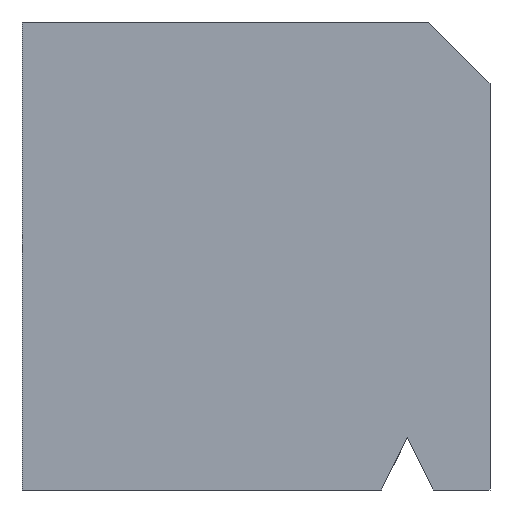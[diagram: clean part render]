
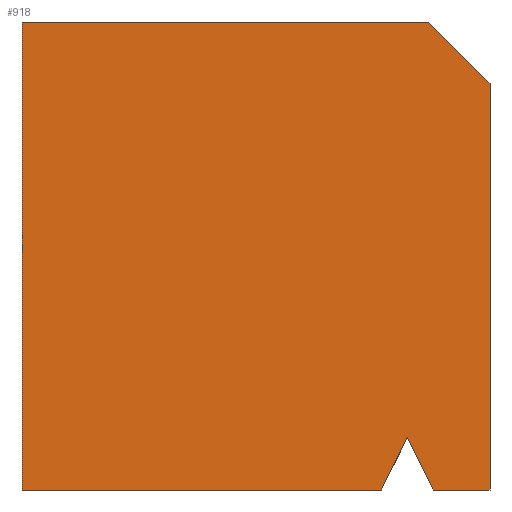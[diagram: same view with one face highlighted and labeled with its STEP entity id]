
A CAD part, front view. The second image highlights one B-rep face of the part: STEP entity #918.
In plain terms, the highlighted planar face has unit normal (0, -1, 0).
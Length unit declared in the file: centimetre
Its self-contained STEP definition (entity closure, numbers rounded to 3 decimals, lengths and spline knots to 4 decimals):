
#8 = CARTESIAN_POINT ( 'NONE',  ( 0., 0., 1000. ) ) ;
#15 = LINE ( 'NONE', #664, #30 ) ;
#16 = VECTOR ( 'NONE', #127, 100. ) ;
#30 = VECTOR ( 'NONE', #373, 100. ) ;
#35 = CARTESIAN_POINT ( 'NONE',  ( 0., 0., 0. ) ) ;
#41 = VECTOR ( 'NONE', #830, 100. ) ;
#58 = DIRECTION ( 'NONE',  ( 0., 0., -1. ) ) ;
#73 = DIRECTION ( 'NONE',  ( 0., 0., 1. ) ) ;
#79 = EDGE_CURVE ( 'NONE', #199, #352, #169, .T. ) ;
#127 = DIRECTION ( 'NONE',  ( -0.707, 0., 0.707 ) ) ;
#132 = CARTESIAN_POINT ( 'NONE',  ( 1000., 0., 0. ) ) ;
#138 = ORIENTED_EDGE ( 'NONE', *, *, #663, .F. ) ;
#145 = FACE_OUTER_BOUND ( 'NONE', #265, .T. ) ;
#169 = LINE ( 'NONE', #8, #752 ) ;
#170 = CARTESIAN_POINT ( 'NONE',  ( 0., 0., 0. ) ) ;
#175 = VERTEX_POINT ( 'NONE', #893 ) ;
#185 = LINE ( 'NONE', #346, #419 ) ;
#199 = VERTEX_POINT ( 'NONE', #889 ) ;
#200 = CARTESIAN_POINT ( 'NONE',  ( 1000., 0., 868.3374 ) ) ;
#201 = CARTESIAN_POINT ( 'NONE',  ( 868.3374, 0., 1000. ) ) ;
#207 = VECTOR ( 'NONE', #272, 100. ) ;
#258 = LINE ( 'NONE', #549, #41 ) ;
#265 = EDGE_LOOP ( 'NONE', ( #288, #340, #891, #843, #138, #689, #481, #644 ) ) ;
#271 = AXIS2_PLACEMENT_3D ( 'NONE', #420, #779, #73 ) ;
#272 = DIRECTION ( 'NONE',  ( -0.441, 0., -0.897 ) ) ;
#275 = VERTEX_POINT ( 'NONE', #35 ) ;
#288 = ORIENTED_EDGE ( 'NONE', *, *, #656, .T. ) ;
#301 = EDGE_CURVE ( 'NONE', #199, #275, #743, .T. ) ;
#340 = ORIENTED_EDGE ( 'NONE', *, *, #482, .F. ) ;
#346 = CARTESIAN_POINT ( 'NONE',  ( 1000., 0., 1000. ) ) ;
#352 = VERTEX_POINT ( 'NONE', #376 ) ;
#361 = EDGE_CURVE ( 'NONE', #651, #418, #890, .T. ) ;
#366 = VERTEX_POINT ( 'NONE', #738 ) ;
#373 = DIRECTION ( 'NONE',  ( -0.441, 0., 0.897 ) ) ;
#376 = CARTESIAN_POINT ( 'NONE',  ( 868.3374, 0., 1000. ) ) ;
#394 = EDGE_CURVE ( 'NONE', #493, #352, #842, .T. ) ;
#418 = VERTEX_POINT ( 'NONE', #132 ) ;
#419 = VECTOR ( 'NONE', #58, 100. ) ;
#420 = CARTESIAN_POINT ( 'NONE',  ( 0., 0., 1000. ) ) ;
#435 = PLANE ( 'NONE',  #271 ) ;
#445 = DIRECTION ( 'NONE',  ( 1., 0., 0. ) ) ;
#481 = ORIENTED_EDGE ( 'NONE', *, *, #79, .F. ) ;
#482 = EDGE_CURVE ( 'NONE', #175, #366, #614, .T. ) ;
#493 = VERTEX_POINT ( 'NONE', #200 ) ;
#529 = CARTESIAN_POINT ( 'NONE',  ( 0., 0., 1000. ) ) ;
#549 = CARTESIAN_POINT ( 'NONE',  ( 0., 0., 0. ) ) ;
#586 = VECTOR ( 'NONE', #445, 100. ) ;
#614 = LINE ( 'NONE', #694, #207 ) ;
#644 = ORIENTED_EDGE ( 'NONE', *, *, #301, .T. ) ;
#651 = VERTEX_POINT ( 'NONE', #824 ) ;
#656 = EDGE_CURVE ( 'NONE', #275, #366, #258, .T. ) ;
#663 = EDGE_CURVE ( 'NONE', #493, #418, #185, .T. ) ;
#664 = CARTESIAN_POINT ( 'NONE',  ( 823.5752, 0., 113.1982 ) ) ;
#689 = ORIENTED_EDGE ( 'NONE', *, *, #394, .T. ) ;
#694 = CARTESIAN_POINT ( 'NONE',  ( 767.9178, 0., 0. ) ) ;
#738 = CARTESIAN_POINT ( 'NONE',  ( 767.9178, 0., 0. ) ) ;
#743 = LINE ( 'NONE', #529, #789 ) ;
#752 = VECTOR ( 'NONE', #865, 100. ) ;
#754 = EDGE_CURVE ( 'NONE', #651, #175, #15, .T. ) ;
#779 = DIRECTION ( 'NONE',  ( 0., 1., 0. ) ) ;
#789 = VECTOR ( 'NONE', #894, 100. ) ;
#824 = CARTESIAN_POINT ( 'NONE',  ( 879.2326, 0., 0. ) ) ;
#830 = DIRECTION ( 'NONE',  ( 1., 0., 0. ) ) ;
#842 = LINE ( 'NONE', #201, #16 ) ;
#843 = ORIENTED_EDGE ( 'NONE', *, *, #361, .T. ) ;
#865 = DIRECTION ( 'NONE',  ( 1., 0., 0. ) ) ;
#889 = CARTESIAN_POINT ( 'NONE',  ( 0., 0., 1000. ) ) ;
#890 = LINE ( 'NONE', #170, #586 ) ;
#891 = ORIENTED_EDGE ( 'NONE', *, *, #754, .F. ) ;
#893 = CARTESIAN_POINT ( 'NONE',  ( 823.5752, 0., 113.1982 ) ) ;
#894 = DIRECTION ( 'NONE',  ( 0., 0., -1. ) ) ;
#918 = ADVANCED_FACE ( 'NONE', ( #145 ), #435, .F. ) ;
